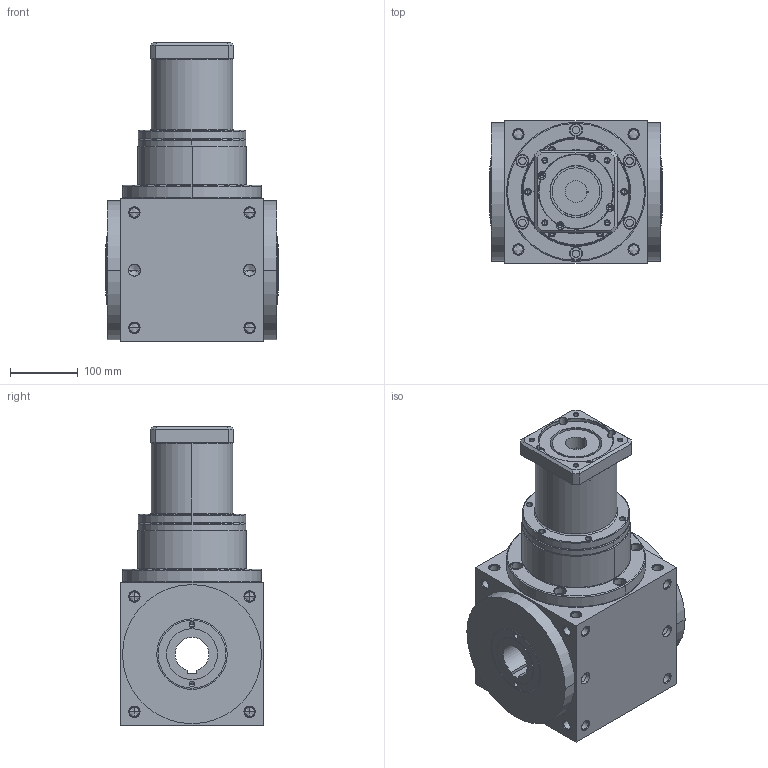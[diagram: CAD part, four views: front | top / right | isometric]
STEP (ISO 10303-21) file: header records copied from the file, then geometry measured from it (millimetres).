
FILE_DESCRIPTION((''),'2;1');
FILE_NAME('AT210FH2-P0405400501_ASM','2009-01-23T',('d00176'),(''),'PRO/ENGINEER BY PARAMETRIC TECHNOLOGY CORPORATION, 2006170','PRO/ENGINEER BY PARAMETRIC TECHNOLOGY CORPORATION, 2006170','');
FILE_SCHEMA(('CONFIG_CONTROL_DESIGN'));
Length unit declared in the file: millimetre
Products named in the file (5): ATFH-HOUSING-2-8; P1801800001; P0226800001; P0405400501; AT210FH2-P0405400501_ASM
Assembly tree (4 placements, depth 2):
  AT210FH2-P0405400501_ASM
    ATFH-HOUSING-2-8
    P1801800001
    P0226800001
    P0405400501
Bounding box: 254 x 210 x 440.5 mm (x, y, z)
Volume: 12396347.7 mm3; surface area: 737810.4 mm2
Topology: 4 solids, 42 shells, 816 faces, 2006 edges, 1178 vertices
Faces by surface type: cylinder 341, cone 294, plane 113, torus 48, bspline 20
Entity records: 25137 total; most frequent: CARTESIAN_POINT 5895, DIRECTION 4312, ORIENTED_EDGE 3676, EDGE_CURVE 1914, AXIS2_PLACEMENT_3D 1791, VERTEX_POINT 1178, CIRCLE 978, EDGE_LOOP 962
